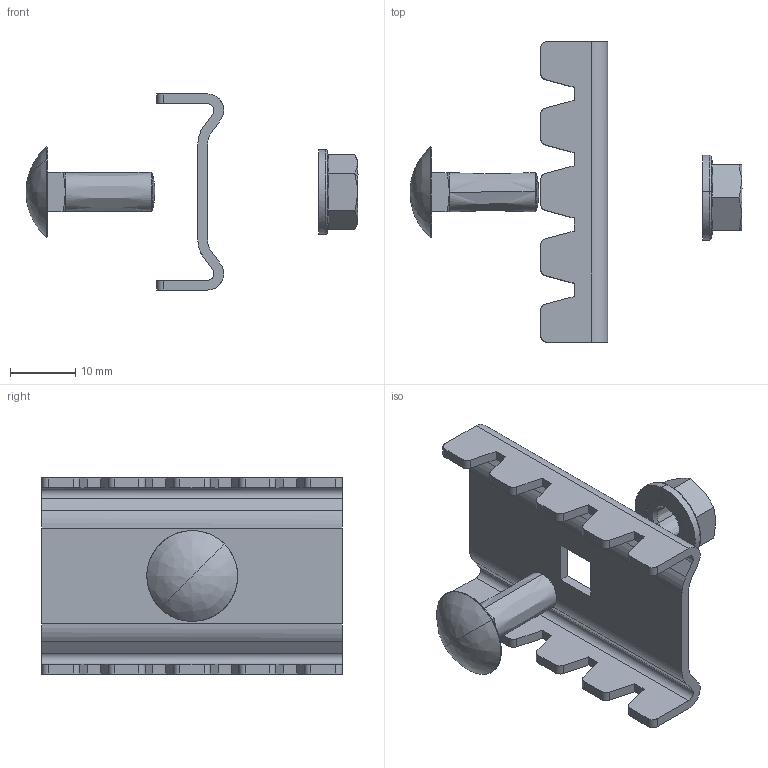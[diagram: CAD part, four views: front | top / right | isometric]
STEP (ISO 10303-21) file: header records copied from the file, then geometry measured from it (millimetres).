
FILE_DESCRIPTION(/* description */ (''),/* implementation_level */ '2;1');
FILE_NAME(/* name */ 'SZM1',/* time_stamp */ '2012-11-29T22:21:18+01:00',/* author */ (''),/* organization */ (''),/* preprocessor_version */ 'ST-DEVELOPER v10',/* originating_system */ '',/* authorisation */ '');
FILE_SCHEMA (('AUTOMOTIVE_DESIGN_CC2'));
Length unit declared in the file: millimetre
Products named in the file (1): 1
Bounding box: 50.8 x 46 x 30 mm (x, y, z)
Surface area: 5577.8 mm2 (no closed solid volume)
Topology: 0 solids, 110 shells, 123 faces, 644 edges, 639 vertices
Faces by surface type: plane 62, bspline 61
Entity records: 9397 total; most frequent: CARTESIAN_POINT 5253, ORIENTED_EDGE 643, EDGE_CURVE 617, VERTEX_POINT 593, B_SPLINE_CURVE_WITH_KNOTS 489, COLOUR_RGB 134, PRESENTATION_STYLE_ASSIGNMENT 134, STYLED_ITEM 134
